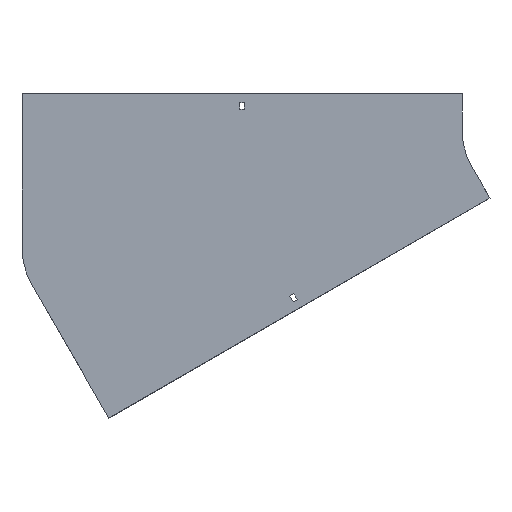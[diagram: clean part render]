
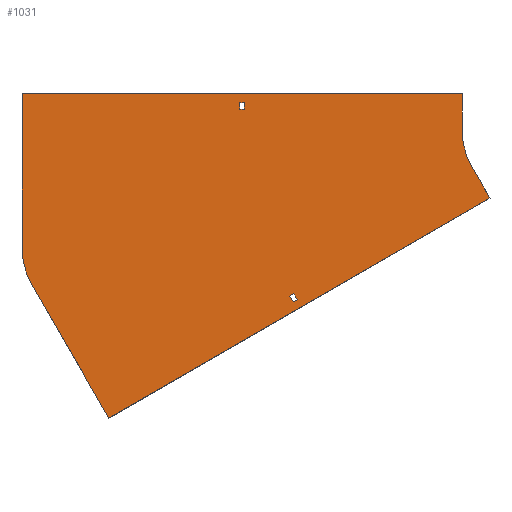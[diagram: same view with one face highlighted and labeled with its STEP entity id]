
A CAD part, front view. The second image highlights one B-rep face of the part: STEP entity #1031.
In plain terms, the highlighted planar face has unit normal (0, -1, 0).
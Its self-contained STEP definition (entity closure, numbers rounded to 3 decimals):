
#13 = VERTEX_POINT ( 'NONE', #1309 ) ;
#15 = VERTEX_POINT ( 'NONE', #679 ) ;
#27 = EDGE_LOOP ( 'NONE', ( #447, #844, #1042, #1261 ) ) ;
#65 = ORIENTED_EDGE ( 'NONE', *, *, #1191, .F. ) ;
#85 = FACE_BOUND ( 'NONE', #192, .T. ) ;
#89 = VERTEX_POINT ( 'NONE', #1019 ) ;
#99 = VERTEX_POINT ( 'NONE', #1006 ) ;
#101 = DIRECTION ( 'NONE',  ( -0.866, 0., -0.5 ) ) ;
#113 = CARTESIAN_POINT ( 'NONE',  ( -604., 0., -161.841 ) ) ;
#118 = EDGE_LOOP ( 'NONE', ( #525, #65, #660, #761, #1316, #701, #750, #628 ) ) ;
#119 = CARTESIAN_POINT ( 'NONE',  ( -704., 0., -161.841 ) ) ;
#139 = DIRECTION ( 'NONE',  ( -1., 0., 0. ) ) ;
#151 = AXIS2_PLACEMENT_3D ( 'NONE', #524, #296, #516 ) ;
#157 = EDGE_CURVE ( 'NONE', #1081, #89, #930, .T. ) ;
#162 = ORIENTED_EDGE ( 'NONE', *, *, #380, .T. ) ;
#171 = VERTEX_POINT ( 'NONE', #1338 ) ;
#190 = PLANE ( 'NONE',  #151 ) ;
#192 = EDGE_LOOP ( 'NONE', ( #1196, #162, #205, #682 ) ) ;
#205 = ORIENTED_EDGE ( 'NONE', *, *, #806, .T. ) ;
#244 = LINE ( 'NONE', #991, #951 ) ;
#245 = DIRECTION ( 'NONE',  ( -0.5, 0., 0.866 ) ) ;
#263 = VERTEX_POINT ( 'NONE', #897 ) ;
#267 = VERTEX_POINT ( 'NONE', #363 ) ;
#275 = DIRECTION ( 'NONE',  ( 1., 0., 0. ) ) ;
#280 = LINE ( 'NONE', #903, #302 ) ;
#292 = VECTOR ( 'NONE', #975, 1000. ) ;
#295 = EDGE_CURVE ( 'NONE', #1174, #378, #280, .T. ) ;
#296 = DIRECTION ( 'NONE',  ( 0., -1., 0. ) ) ;
#297 = EDGE_CURVE ( 'NONE', #267, #1081, #1122, .T. ) ;
#302 = VECTOR ( 'NONE', #492, 1000. ) ;
#327 = EDGE_CURVE ( 'NONE', #378, #1357, #1344, .T. ) ;
#330 = DIRECTION ( 'NONE',  ( 0., 0., -1. ) ) ;
#349 = VECTOR ( 'NONE', #1041, 1000. ) ;
#361 = LINE ( 'NONE', #474, #431 ) ;
#363 = CARTESIAN_POINT ( 'NONE',  ( -398.75, 0., 29. ) ) ;
#365 = CARTESIAN_POINT ( 'NONE',  ( -584.682, 0., -395.301 ) ) ;
#378 = VERTEX_POINT ( 'NONE', #482 ) ;
#380 = EDGE_CURVE ( 'NONE', #89, #15, #893, .T. ) ;
#389 = FACE_OUTER_BOUND ( 'NONE', #118, .T. ) ;
#398 = EDGE_CURVE ( 'NONE', #1279, #895, #448, .T. ) ;
#431 = VECTOR ( 'NONE', #673, 1000. ) ;
#439 = EDGE_CURVE ( 'NONE', #99, #1279, #647, .T. ) ;
#446 = DIRECTION ( 'NONE',  ( 0., 1., 0. ) ) ;
#447 = ORIENTED_EDGE ( 'NONE', *, *, #295, .F. ) ;
#448 = LINE ( 'NONE', #1179, #594 ) ;
#468 = CARTESIAN_POINT ( 'NONE',  ( -100., 0., 0. ) ) ;
#474 = CARTESIAN_POINT ( 'NONE',  ( -100., 0., 50. ) ) ;
#482 = CARTESIAN_POINT ( 'NONE',  ( -326.328, 0., -232.284 ) ) ;
#492 = DIRECTION ( 'NONE',  ( 0.866, 0., 0.5 ) ) ;
#505 = CARTESIAN_POINT ( 'NONE',  ( -405.25, 0., 29. ) ) ;
#514 = AXIS2_PLACEMENT_3D ( 'NONE', #113, #446, #654 ) ;
#516 = DIRECTION ( 'NONE',  ( 0., 0., -1. ) ) ;
#522 = EDGE_CURVE ( 'NONE', #895, #996, #244, .T. ) ;
#524 = CARTESIAN_POINT ( 'NONE',  ( 0., 0., 0. ) ) ;
#525 = ORIENTED_EDGE ( 'NONE', *, *, #973, .F. ) ;
#530 = CARTESIAN_POINT ( 'NONE',  ( 0., 0., 0. ) ) ;
#544 = AXIS2_PLACEMENT_3D ( 'NONE', #530, #1388, #330 ) ;
#575 = CARTESIAN_POINT ( 'NONE',  ( -405.25, 0., 29. ) ) ;
#594 = VECTOR ( 'NONE', #967, 1000. ) ;
#614 = EDGE_CURVE ( 'NONE', #263, #1174, #747, .T. ) ;
#628 = ORIENTED_EDGE ( 'NONE', *, *, #1287, .F. ) ;
#629 = CARTESIAN_POINT ( 'NONE',  ( -690.603, 0., -211.841 ) ) ;
#636 = VECTOR ( 'NONE', #139, 1000. ) ;
#637 = LINE ( 'NONE', #119, #872 ) ;
#647 = LINE ( 'NONE', #742, #924 ) ;
#654 = DIRECTION ( 'NONE',  ( 0., 0., 1. ) ) ;
#660 = ORIENTED_EDGE ( 'NONE', *, *, #1140, .F. ) ;
#664 = DIRECTION ( 'NONE',  ( 1., 0., 0. ) ) ;
#668 = DIRECTION ( 'NONE',  ( -0.5, 0., 0.866 ) ) ;
#673 = DIRECTION ( 'NONE',  ( 0., 0., -1. ) ) ;
#679 = CARTESIAN_POINT ( 'NONE',  ( -398.75, 0., 38. ) ) ;
#682 = ORIENTED_EDGE ( 'NONE', *, *, #297, .T. ) ;
#701 = ORIENTED_EDGE ( 'NONE', *, *, #439, .F. ) ;
#724 = VERTEX_POINT ( 'NONE', #468 ) ;
#742 = CARTESIAN_POINT ( 'NONE',  ( -86.603, 0., -50. ) ) ;
#747 = LINE ( 'NONE', #1296, #292 ) ;
#750 = ORIENTED_EDGE ( 'NONE', *, *, #1234, .F. ) ;
#761 = ORIENTED_EDGE ( 'NONE', *, *, #522, .F. ) ;
#763 = EDGE_CURVE ( 'NONE', #1357, #263, #1067, .T. ) ;
#770 = LINE ( 'NONE', #1299, #1118 ) ;
#777 = VECTOR ( 'NONE', #101, 1000. ) ;
#781 = VERTEX_POINT ( 'NONE', #1154 ) ;
#801 = CARTESIAN_POINT ( 'NONE',  ( -405.25, 0., 29. ) ) ;
#806 = EDGE_CURVE ( 'NONE', #15, #267, #820, .T. ) ;
#812 = CARTESIAN_POINT ( 'NONE',  ( -330.828, 0., -224.49 ) ) ;
#820 = LINE ( 'NONE', #1245, #349 ) ;
#824 = FACE_BOUND ( 'NONE', #27, .T. ) ;
#844 = ORIENTED_EDGE ( 'NONE', *, *, #614, .F. ) ;
#860 = DIRECTION ( 'NONE',  ( 0., 0., 1. ) ) ;
#863 = VECTOR ( 'NONE', #275, 1000. ) ;
#872 = VECTOR ( 'NONE', #860, 1000. ) ;
#893 = LINE ( 'NONE', #909, #863 ) ;
#895 = VERTEX_POINT ( 'NONE', #365 ) ;
#897 = CARTESIAN_POINT ( 'NONE',  ( -336.457, 0., -227.74 ) ) ;
#903 = CARTESIAN_POINT ( 'NONE',  ( -331.957, 0., -235.534 ) ) ;
#909 = CARTESIAN_POINT ( 'NONE',  ( -405.25, 0., 38. ) ) ;
#912 = CARTESIAN_POINT ( 'NONE',  ( -330.828, 0., -224.49 ) ) ;
#924 = VECTOR ( 'NONE', #1071, 1000. ) ;
#930 = LINE ( 'NONE', #575, #958 ) ;
#951 = VECTOR ( 'NONE', #668, 1000. ) ;
#958 = VECTOR ( 'NONE', #1330, 1000. ) ;
#959 = CARTESIAN_POINT ( 'NONE',  ( -331.957, 0., -235.534 ) ) ;
#967 = DIRECTION ( 'NONE',  ( -0.866, 0., -0.5 ) ) ;
#973 = EDGE_CURVE ( 'NONE', #171, #781, #770, .T. ) ;
#975 = DIRECTION ( 'NONE',  ( 0.5, 0., -0.866 ) ) ;
#980 = CARTESIAN_POINT ( 'NONE',  ( -61.603, 0., -93.301 ) ) ;
#991 = CARTESIAN_POINT ( 'NONE',  ( -584.682, 0., -395.301 ) ) ;
#996 = VERTEX_POINT ( 'NONE', #629 ) ;
#1001 = CIRCLE ( 'NONE', #544, 100. ) ;
#1006 = CARTESIAN_POINT ( 'NONE',  ( -86.603, 0., -50. ) ) ;
#1019 = CARTESIAN_POINT ( 'NONE',  ( -405.25, 0., 38. ) ) ;
#1031 = ADVANCED_FACE ( 'NONE', ( #85, #389, #824 ), #190, .T. ) ;
#1041 = DIRECTION ( 'NONE',  ( 0., 0., -1. ) ) ;
#1042 = ORIENTED_EDGE ( 'NONE', *, *, #763, .F. ) ;
#1067 = LINE ( 'NONE', #1185, #777 ) ;
#1071 = DIRECTION ( 'NONE',  ( 0.5, 0., -0.866 ) ) ;
#1081 = VERTEX_POINT ( 'NONE', #505 ) ;
#1118 = VECTOR ( 'NONE', #664, 1000. ) ;
#1122 = LINE ( 'NONE', #801, #636 ) ;
#1140 = EDGE_CURVE ( 'NONE', #996, #13, #1368, .T. ) ;
#1154 = CARTESIAN_POINT ( 'NONE',  ( -100., 0., 50. ) ) ;
#1174 = VERTEX_POINT ( 'NONE', #959 ) ;
#1179 = CARTESIAN_POINT ( 'NONE',  ( -61.603, 0., -93.301 ) ) ;
#1185 = CARTESIAN_POINT ( 'NONE',  ( -336.457, 0., -227.74 ) ) ;
#1191 = EDGE_CURVE ( 'NONE', #13, #171, #637, .T. ) ;
#1196 = ORIENTED_EDGE ( 'NONE', *, *, #157, .T. ) ;
#1211 = VECTOR ( 'NONE', #245, 1000. ) ;
#1234 = EDGE_CURVE ( 'NONE', #724, #99, #1001, .T. ) ;
#1245 = CARTESIAN_POINT ( 'NONE',  ( -398.75, 0., 29. ) ) ;
#1261 = ORIENTED_EDGE ( 'NONE', *, *, #327, .F. ) ;
#1279 = VERTEX_POINT ( 'NONE', #980 ) ;
#1287 = EDGE_CURVE ( 'NONE', #781, #724, #361, .T. ) ;
#1296 = CARTESIAN_POINT ( 'NONE',  ( -336.457, 0., -227.74 ) ) ;
#1299 = CARTESIAN_POINT ( 'NONE',  ( -704., 0., 50. ) ) ;
#1309 = CARTESIAN_POINT ( 'NONE',  ( -704., 0., -161.841 ) ) ;
#1316 = ORIENTED_EDGE ( 'NONE', *, *, #398, .F. ) ;
#1330 = DIRECTION ( 'NONE',  ( 0., 0., 1. ) ) ;
#1338 = CARTESIAN_POINT ( 'NONE',  ( -704., 0., 50. ) ) ;
#1344 = LINE ( 'NONE', #812, #1211 ) ;
#1357 = VERTEX_POINT ( 'NONE', #912 ) ;
#1368 = CIRCLE ( 'NONE', #514, 100. ) ;
#1388 = DIRECTION ( 'NONE',  ( 0., -1., 0. ) ) ;
